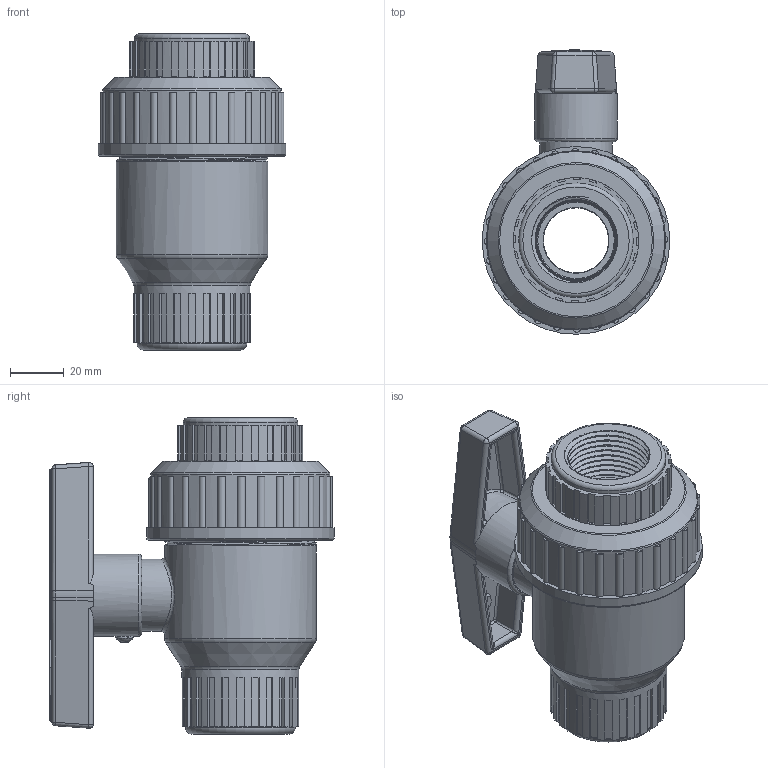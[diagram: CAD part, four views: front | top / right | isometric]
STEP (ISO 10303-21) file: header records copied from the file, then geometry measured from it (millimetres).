
FILE_DESCRIPTION(/* description */ ('Alibre Inc.'),/* implementation_level */ '2;1');
FILE_NAME(/* name */ 'export0',/* time_stamp */ '2017-08-28T10:01:21-04:00',/* author */ (''),/* organization */ (''),/* preprocessor_version */ 'ST-DEVELOPER v14',/* originating_system */ 'Alibre',/* authorisation */ '');
FILE_SCHEMA (('CONFIG_CONTROL_DESIGN'));
Length unit declared in the file: inch
Products named in the file (13): ID_1; ID_2; ID_3; ID_4; ID_5; ID_6; ID_7; ID_8; ID_9
Bounding box: 70.1 x 106.23 x 118.04 mm (x, y, z)
Volume: 229407.4 mm3; surface area: 103697.4 mm2
Topology: 13 solids, 13 shells, 815 faces, 2177 edges, 1401 vertices
Faces by surface type: plane 398, cylinder 190, cone 92, bspline 82, torus 30, sphere 23
Full cylindrical faces by diameter (mm): 3.302 x1, 11.049 x1, 11.176 x1, 14.224 x2, 14.275 x1, 24.13 x1, 24.333 x1, 24.638 x1, 25.146 x1, 26.975 x1, 27.503 x1, 27.686 x1, 28.042 x2, 30.734 x1, 30.988 x1, 33.223 x2, 33.833 x2, 38.887 x1, 40.589 x1, 41.148 x1, 42.774 x1, 43.688 x1, 45.542 x2, 45.593 x1, 46.736 x2, 53.848 x1, 56.642 x9, 66.802 x1, 70.104 x1
Entity records: 79086 total; most frequent: CARTESIAN_POINT 60276, ORIENTED_EDGE 4076, DIRECTION 2868, EDGE_CURVE 2038, VERTEX_POINT 1348, AXIS2_PLACEMENT_3D 1140, VECTOR 984, LINE 984
